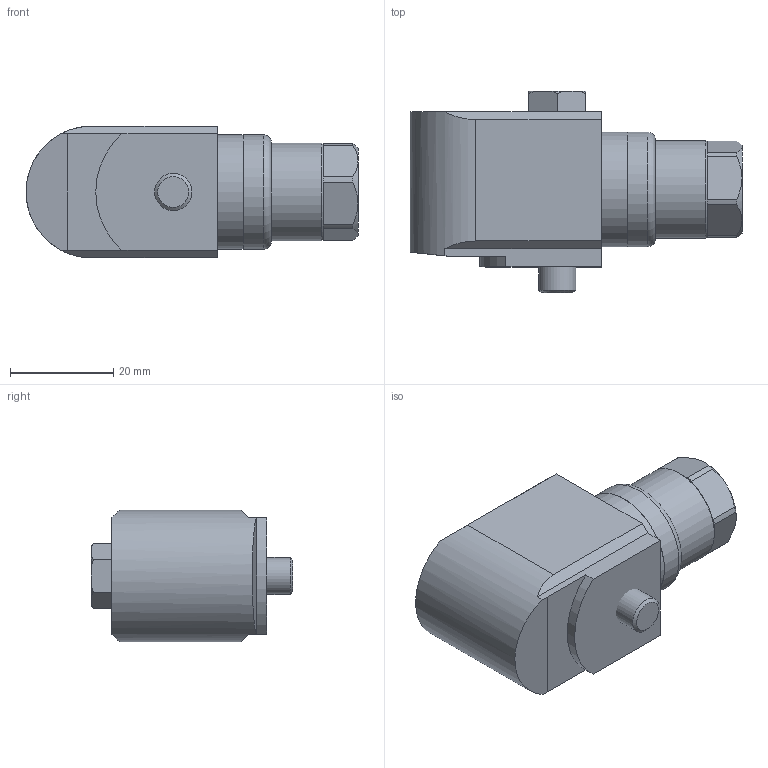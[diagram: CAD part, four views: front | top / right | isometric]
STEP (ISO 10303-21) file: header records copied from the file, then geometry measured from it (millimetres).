
FILE_DESCRIPTION(/* description */ (''),/* implementation_level */ '2;1');
FILE_NAME(/* name */ 'Z:\Engineering\Drawings\3D Library\Assemblies\Website\Premium Side\HS-150 Side Silicon\HS-150SXXX0706.stp',/* time_stamp */ '2023-03-12T13:48:16+00:00',/* author */ ('Ricardo.Peneda'),/* organization */ (''),/* preprocessor_version */ 'ST-DEVELOPER v18.1',/* originating_system */ 'Autodesk Inventor 2021',/* authorisation */ '');
FILE_SCHEMA (('AUTOMOTIVE_DESIGN { 1 0 10303 214 3 1 1 }'));
Length unit declared in the file: inch
Products named in the file (1): HS-150SXXX0706_Shrinkwrap_1
Bounding box: 64.25 x 39 x 25.5 mm (x, y, z)
Volume: 26492.2 mm3; surface area: 12236.8 mm2
Topology: 5 solids, 5 shells, 94 faces, 233 edges, 164 vertices
Faces by surface type: plane 48, cylinder 28, cone 17, torus 1
Full cylindrical faces by diameter (mm): 4.5 x1, 5.359 x1, 7.2 x1, 9 x1, 10 x1, 12 x2, 13 x1, 14 x1, 14.95 x1, 15 x2, 15.34 x1, 15.35 x1, 18 x1, 19 x1, 19.95 x1, 20 x1, 22.2 x2
Entity records: 3012 total; most frequent: CARTESIAN_POINT 540, DIRECTION 516, ORIENTED_EDGE 466, EDGE_CURVE 233, AXIS2_PLACEMENT_3D 212, VERTEX_POINT 164, EDGE_LOOP 115, CIRCLE 112
